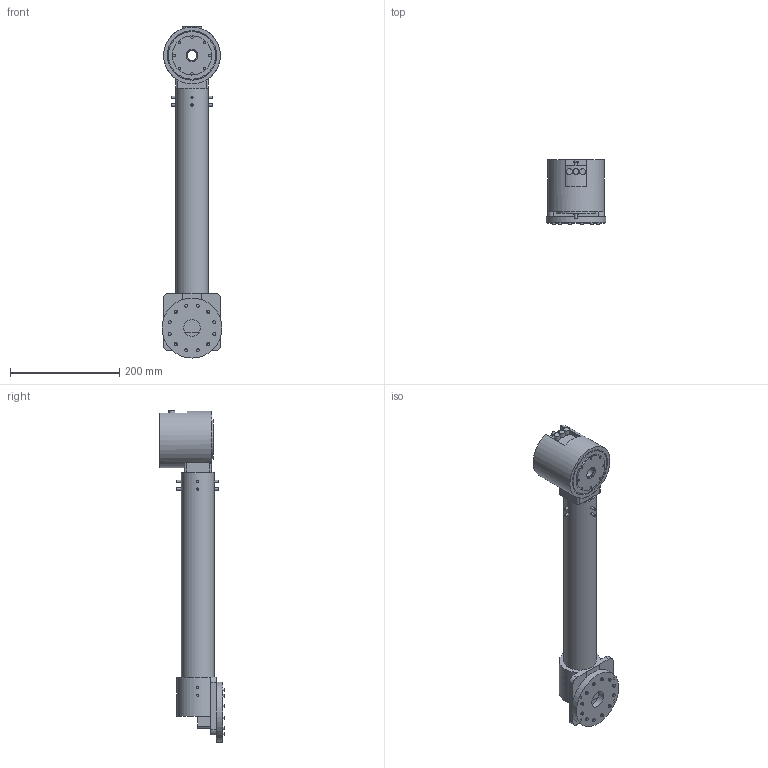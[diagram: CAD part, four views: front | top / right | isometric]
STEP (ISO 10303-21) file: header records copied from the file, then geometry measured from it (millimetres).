
FILE_DESCRIPTION(('Open CASCADE Model'),'2;1');
FILE_NAME('Open CASCADE Shape Model','2026-10-17T21:01:26',('Author'),( 'Open CASCADE'),'Open CASCADE STEP processor 7.9','Open CASCADE 7.9' ,'Unknown');
FILE_SCHEMA(('AUTOMOTIVE_DESIGN { 1 0 10303 214 1 1 1 1 }'));
Length unit declared in the file: millimetre
Products named in the file (13): ARM_L2_UPPER; upper_hub_disc; J2_flange_screws_M5; upper_hub_block; upper_block_screws_M6; upper_hub_cross_pins_M4; upper_arm_tube_carbon; elbow_housing; elbow_cross_pins_M4; J3_body_screws_M5; J3_actuator_body; J3_actuator_output_flange; J3_actuator_connectors
Assembly tree (12 placements, depth 2):
  ARM_L2_UPPER
    upper_hub_disc
    J2_flange_screws_M5
    upper_hub_block
    upper_block_screws_M6
    upper_hub_cross_pins_M4
    upper_arm_tube_carbon
    elbow_housing
    elbow_cross_pins_M4
    J3_body_screws_M5
    J3_actuator_body
    J3_actuator_output_flange
    J3_actuator_connectors
Bounding box: 110 x 117.8 x 609 mm (x, y, z)
Volume: 1304738.2 mm3; surface area: 399368.2 mm2
Topology: 37 solids, 37 shells, 535 faces, 1138 edges, 755 vertices
Faces by surface type: plane 339, cylinder 196
Full cylindrical faces by diameter (mm): 4 x40, 4.2 x24, 5 x24, 5.5 x19, 6 x4, 6.6 x4, 8.5 x20, 9.1 x19, 10 x4, 10.6 x4, 11 x3, 18 x2, 22 x1, 30 x1, 31 x1, 56 x1, 60 x1, 60.3 x1, 72 x1, 87 x2, 90 x1, 90.6 x1, 104 x1, 110 x1
Entity records: 38135 total; most frequent: CARTESIAN_POINT 13646, DIRECTION 4529, LINE 2399, VECTOR 2399, ORIENTED_EDGE 2276, PCURVE 2276, DEFINITIONAL_REPRESENTATION 2276, EDGE_CURVE 1138
